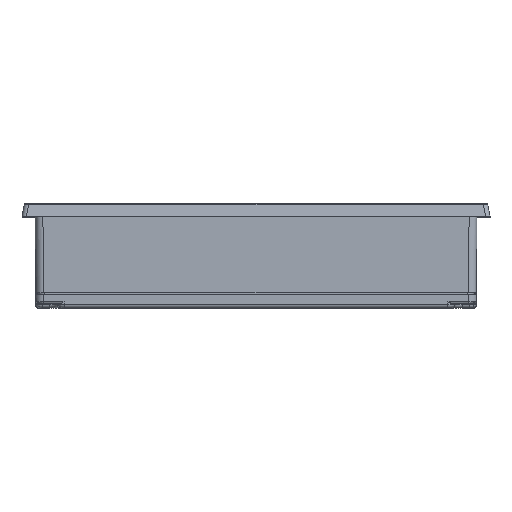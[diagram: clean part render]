
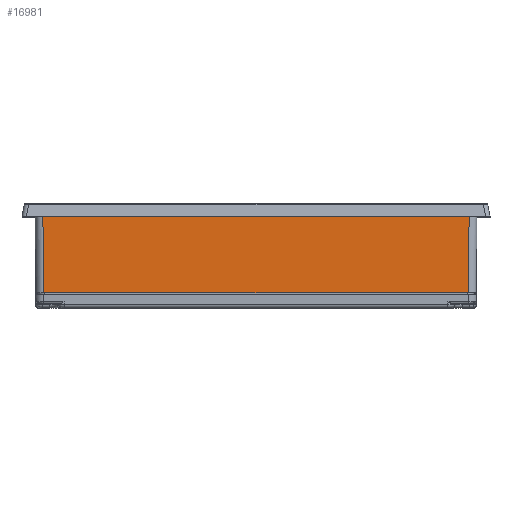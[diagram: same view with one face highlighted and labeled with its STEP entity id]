
A CAD part, top view. The second image highlights one B-rep face of the part: STEP entity #16981.
In plain terms, the highlighted planar face has unit normal (0, -0.009, 1).
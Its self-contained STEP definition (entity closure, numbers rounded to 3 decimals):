
#1341 = LINE ( 'NONE', #22303, #12231 ) ;
#2669 = ORIENTED_EDGE ( 'NONE', *, *, #22309, .T. ) ;
#2985 = DIRECTION ( 'NONE',  ( 0., -0.009, 1. ) ) ;
#3059 = VECTOR ( 'NONE', #8915, 1000. ) ;
#4695 = PLANE ( 'NONE',  #7647 ) ;
#5120 = VECTOR ( 'NONE', #19500, 1000. ) ;
#5331 = LINE ( 'NONE', #21228, #3059 ) ;
#5438 = LINE ( 'NONE', #12476, #5120 ) ;
#5790 = EDGE_CURVE ( 'NONE', #21719, #10234, #5844, .T. ) ;
#5844 = LINE ( 'NONE', #11239, #10160 ) ;
#6335 = CARTESIAN_POINT ( 'NONE',  ( -95.182, -34., 68.681 ) ) ;
#6758 = FACE_OUTER_BOUND ( 'NONE', #22715, .T. ) ;
#7647 = AXIS2_PLACEMENT_3D ( 'NONE', #8158, #2985, #16785 ) ;
#8158 = CARTESIAN_POINT ( 'NONE',  ( 99., 2.5, 69. ) ) ;
#8178 = CARTESIAN_POINT ( 'NONE',  ( 95.504, 3., 69.004 ) ) ;
#8504 = EDGE_CURVE ( 'NONE', #10234, #10245, #5438, .T. ) ;
#8915 = DIRECTION ( 'NONE',  ( 1., 0., 0. ) ) ;
#9967 = ORIENTED_EDGE ( 'NONE', *, *, #5790, .T. ) ;
#10084 = CARTESIAN_POINT ( 'NONE',  ( 95.182, -34., 68.681 ) ) ;
#10160 = VECTOR ( 'NONE', #13316, 1000. ) ;
#10234 = VERTEX_POINT ( 'NONE', #8178 ) ;
#10245 = VERTEX_POINT ( 'NONE', #17042 ) ;
#11239 = CARTESIAN_POINT ( 'NONE',  ( 95.5, 2.531, 69. ) ) ;
#12231 = VECTOR ( 'NONE', #17443, 1000. ) ;
#12476 = CARTESIAN_POINT ( 'NONE',  ( -104.85, 3., 69.004 ) ) ;
#12948 = VERTEX_POINT ( 'NONE', #6335 ) ;
#13232 = ORIENTED_EDGE ( 'NONE', *, *, #8504, .T. ) ;
#13316 = DIRECTION ( 'NONE',  ( 0.009, 1., 0.009 ) ) ;
#14228 = ORIENTED_EDGE ( 'NONE', *, *, #21812, .T. ) ;
#16785 = DIRECTION ( 'NONE',  ( 0., -1., -0.009 ) ) ;
#16981 = ADVANCED_FACE ( 'NONE', ( #6758 ), #4695, .T. ) ;
#17042 = CARTESIAN_POINT ( 'NONE',  ( -95.504, 3., 69.004 ) ) ;
#17443 = DIRECTION ( 'NONE',  ( 0.009, -1., -0.009 ) ) ;
#19500 = DIRECTION ( 'NONE',  ( -1., 0., 0. ) ) ;
#21228 = CARTESIAN_POINT ( 'NONE',  ( 99., -34., 68.681 ) ) ;
#21719 = VERTEX_POINT ( 'NONE', #10084 ) ;
#21812 = EDGE_CURVE ( 'NONE', #10245, #12948, #1341, .T. ) ;
#22303 = CARTESIAN_POINT ( 'NONE',  ( -95.485, 0.803, 68.985 ) ) ;
#22309 = EDGE_CURVE ( 'NONE', #12948, #21719, #5331, .T. ) ;
#22715 = EDGE_LOOP ( 'NONE', ( #2669, #9967, #13232, #14228 ) ) ;
